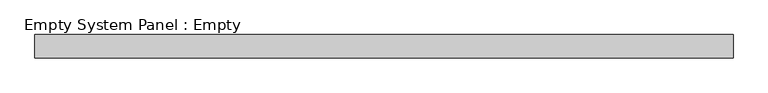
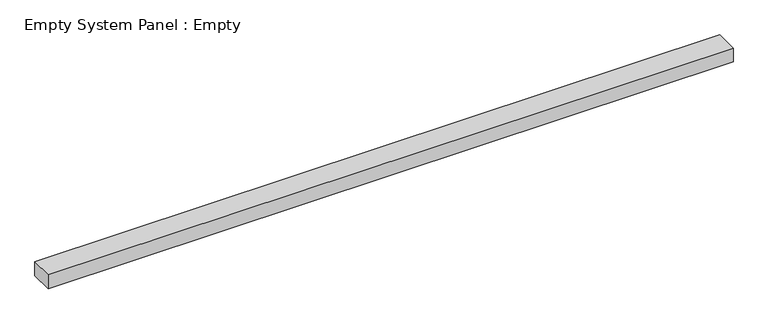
"""IFC4 building model written with IfcOpenShell, lengths in millimetres: plate geometry, Empty System Panel : Empty."""

from ifc_helpers import new_model, si_unit, origin, origin_with_axes, place, context, project, spatial, polyline, outline, extrude, source, transform, mapped, element, save


def empty_system_panel_empty_81cf2ed3(model_context):
    return source(origin(), model_context, "Body", "SweptSolid", [
        extrude(outline(polyline([(1500.0, 50.0), (-1500.0, 50.0), (-1500.0, 150.0), (1500.0, 150.0), (1500.0, 50.0)])), origin_with_axes(), (0.0, 0.0, 1.0), 64.7754404),
    ])


if __name__ == "__main__":
    model = new_model("IFC4")
    model_context = context("Model", 3, world=origin())
    ifc_project = project(units=[si_unit("LENGTHUNIT", "METRE", prefix="MILLI")], contexts=[model_context])
    site = spatial("IfcSite", under=ifc_project)
    building = spatial("IfcBuilding", under=site)
    placement = place(None, origin())
    empty_system_panel_empty_shape = empty_system_panel_empty_81cf2ed3(model_context)
    element("IfcPlate", 1, ObjectType="Empty System Panel : Empty", at=placement, inside=building, context=model_context, shape_type="MappedRepresentation", body=[
        mapped(empty_system_panel_empty_shape, transform((0.0, 0.0, 0.0), x_axis=(1.0, 0.0, 0.0), y_axis=(0.0, 1.0, 0.0), z_axis=(0.0, 0.0, 1.0))),
    ])
    save(model, "model.ifc")
